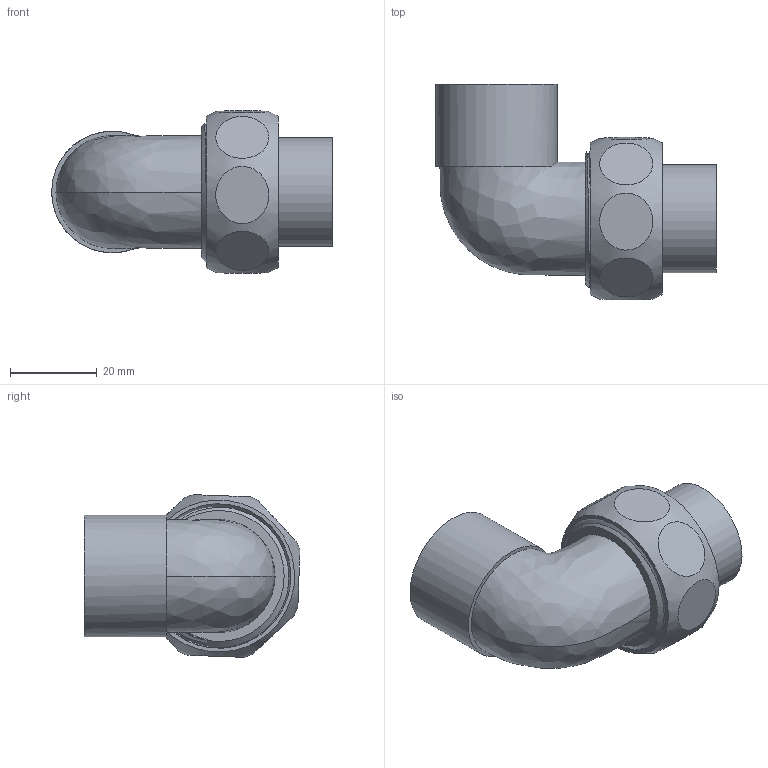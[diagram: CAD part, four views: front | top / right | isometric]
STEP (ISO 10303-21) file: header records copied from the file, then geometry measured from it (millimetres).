
FILE_DESCRIPTION((''),'2;1');
FILE_NAME('C:\Users\gomulka\Desktop\Lohse\1409622\1409622.stp','2014-08-28T09:28:58',('gomulka'),(''),'Autodesk Inventor 2009','Autodesk Inventor 2009','');
FILE_SCHEMA(('AUTOMOTIVE_DESIGN { 1 0 10303 214 1 1 1 1 }'));
Length unit declared in the file: millimetre
Products named in the file (4): 1409622; 1E4098G221; 14381_22-1(3); 14374_1(1)
Assembly tree (3 placements, depth 2):
  1409622
    1E4098G221
    14381_22-1(3)
    14374_1(1)
Bounding box: 64.66 x 49.73 x 37.47 mm (x, y, z)
Volume: 24267.9 mm3; surface area: 18471.1 mm2
Topology: 3 solids, 3 shells, 43 faces, 94 edges, 69 vertices
Faces by surface type: plane 21, cylinder 10, bspline 7, cone 4, torus 1
Full cylindrical faces by diameter (mm): 21 x1, 22 x2, 25 x1, 27.5 x2, 28 x1, 29.5 x1, 30.291 x1
Entity records: 4152 total; most frequent: CARTESIAN_POINT 3226, ORIENTED_EDGE 156, DIRECTION 140, EDGE_CURVE 78, EDGE_LOOP 75, AXIS2_PLACEMENT_3D 69, VERTEX_POINT 67, FACE_OUTER_BOUND 43
